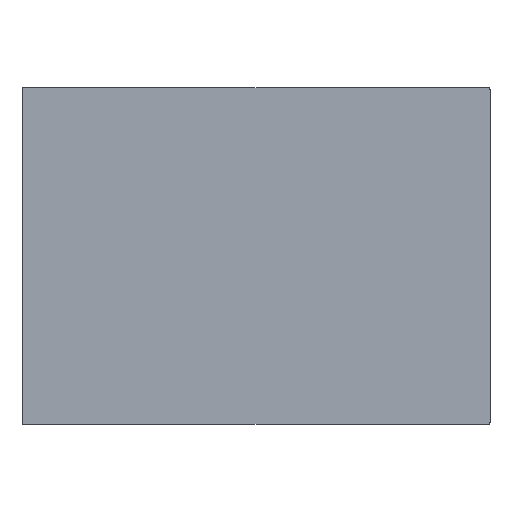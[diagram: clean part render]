
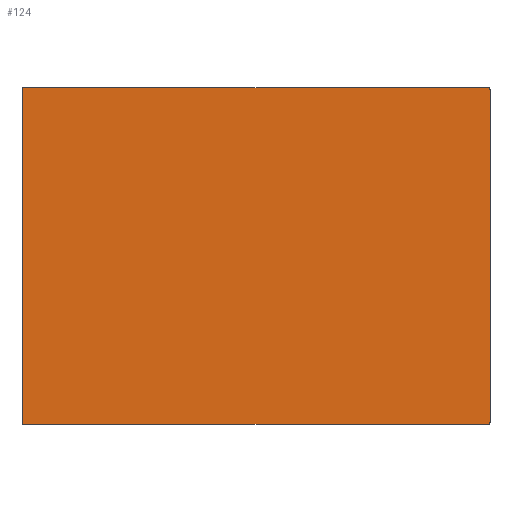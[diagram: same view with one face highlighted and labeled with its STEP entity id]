
A CAD part, front view. The second image highlights one B-rep face of the part: STEP entity #124.
In plain terms, the highlighted planar face has unit normal (0, -1, 0).
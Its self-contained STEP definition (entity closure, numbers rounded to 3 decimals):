
#3 = CARTESIAN_POINT ( 'NONE',  ( 162., 0., 0. ) ) ;
#8 = DIRECTION ( 'NONE',  ( 0., -1., 0. ) ) ;
#63 = AXIS2_PLACEMENT_3D ( 'NONE', #423, #8, #964 ) ;
#95 = VERTEX_POINT ( 'NONE', #1467 ) ;
#113 = EDGE_CURVE ( 'NONE', #1367, #550, #1326, .T. ) ;
#124 = ADVANCED_FACE ( 'NONE', ( #499 ), #1750, .T. ) ;
#138 = VERTEX_POINT ( 'NONE', #1519 ) ;
#150 = VECTOR ( 'NONE', #493, 1000. ) ;
#172 = AXIS2_PLACEMENT_3D ( 'NONE', #367, #761, #622 ) ;
#260 = CARTESIAN_POINT ( 'NONE',  ( 162., 0., 0. ) ) ;
#274 = DIRECTION ( 'NONE',  ( 0., 0., -1. ) ) ;
#293 = ORIENTED_EDGE ( 'NONE', *, *, #1511, .F. ) ;
#310 = DIRECTION ( 'NONE',  ( 0., 0., -1. ) ) ;
#317 = ORIENTED_EDGE ( 'NONE', *, *, #877, .F. ) ;
#367 = CARTESIAN_POINT ( 'NONE',  ( 162., 0., -2. ) ) ;
#386 = CARTESIAN_POINT ( 'NONE',  ( 660., 0., -2. ) ) ;
#387 = VECTOR ( 'NONE', #796, 1000. ) ;
#396 = VERTEX_POINT ( 'NONE', #659 ) ;
#410 = VECTOR ( 'NONE', #274, 1000. ) ;
#423 = CARTESIAN_POINT ( 'NONE',  ( 162., 0., -2. ) ) ;
#449 = CARTESIAN_POINT ( 'NONE',  ( 658., 0., -2. ) ) ;
#487 = CARTESIAN_POINT ( 'NONE',  ( 162., 0., -360. ) ) ;
#493 = DIRECTION ( 'NONE',  ( -1., 0., 0. ) ) ;
#499 = FACE_OUTER_BOUND ( 'NONE', #1031, .T. ) ;
#550 = VERTEX_POINT ( 'NONE', #596 ) ;
#573 = CIRCLE ( 'NONE', #172, 2. ) ;
#588 = ORIENTED_EDGE ( 'NONE', *, *, #1151, .F. ) ;
#590 = DIRECTION ( 'NONE',  ( 0., 0., -1. ) ) ;
#596 = CARTESIAN_POINT ( 'NONE',  ( 658., 0., 0. ) ) ;
#618 = EDGE_CURVE ( 'NONE', #95, #1477, #795, .T. ) ;
#622 = DIRECTION ( 'NONE',  ( 0., 0., -1. ) ) ;
#659 = CARTESIAN_POINT ( 'NONE',  ( 160., 0., -358. ) ) ;
#695 = CARTESIAN_POINT ( 'NONE',  ( 162., 0., -358. ) ) ;
#761 = DIRECTION ( 'NONE',  ( 0., 1., 0. ) ) ;
#776 = VERTEX_POINT ( 'NONE', #1069 ) ;
#795 = CIRCLE ( 'NONE', #1247, 2. ) ;
#796 = DIRECTION ( 'NONE',  ( 0., 0., 1. ) ) ;
#830 = DIRECTION ( 'NONE',  ( 1., 0., 0. ) ) ;
#840 = ORIENTED_EDGE ( 'NONE', *, *, #618, .F. ) ;
#850 = LINE ( 'NONE', #1339, #387 ) ;
#877 = EDGE_CURVE ( 'NONE', #776, #396, #1026, .T. ) ;
#964 = DIRECTION ( 'NONE',  ( 0., 0., -1. ) ) ;
#1003 = LINE ( 'NONE', #487, #150 ) ;
#1026 = CIRCLE ( 'NONE', #1621, 2. ) ;
#1031 = EDGE_LOOP ( 'NONE', ( #1718, #1671, #317, #588, #840, #1250, #293, #1309 ) ) ;
#1069 = CARTESIAN_POINT ( 'NONE',  ( 162., 0., -360. ) ) ;
#1070 = LINE ( 'NONE', #386, #410 ) ;
#1151 = EDGE_CURVE ( 'NONE', #1477, #776, #1003, .T. ) ;
#1247 = AXIS2_PLACEMENT_3D ( 'NONE', #1401, #1680, #590 ) ;
#1248 = VERTEX_POINT ( 'NONE', #1336 ) ;
#1250 = ORIENTED_EDGE ( 'NONE', *, *, #1773, .F. ) ;
#1253 = CARTESIAN_POINT ( 'NONE',  ( 658., 0., -360. ) ) ;
#1307 = VECTOR ( 'NONE', #830, 1000. ) ;
#1309 = ORIENTED_EDGE ( 'NONE', *, *, #113, .F. ) ;
#1326 = LINE ( 'NONE', #260, #1307 ) ;
#1336 = CARTESIAN_POINT ( 'NONE',  ( 660., 0., -2. ) ) ;
#1339 = CARTESIAN_POINT ( 'NONE',  ( 160., 0., -2. ) ) ;
#1363 = DIRECTION ( 'NONE',  ( 0., 1., 0. ) ) ;
#1367 = VERTEX_POINT ( 'NONE', #3 ) ;
#1401 = CARTESIAN_POINT ( 'NONE',  ( 658., 0., -358. ) ) ;
#1467 = CARTESIAN_POINT ( 'NONE',  ( 660., 0., -358. ) ) ;
#1477 = VERTEX_POINT ( 'NONE', #1253 ) ;
#1511 = EDGE_CURVE ( 'NONE', #550, #1248, #1686, .T. ) ;
#1519 = CARTESIAN_POINT ( 'NONE',  ( 160., 0., -2. ) ) ;
#1540 = AXIS2_PLACEMENT_3D ( 'NONE', #449, #1654, #1670 ) ;
#1621 = AXIS2_PLACEMENT_3D ( 'NONE', #695, #1363, #310 ) ;
#1650 = EDGE_CURVE ( 'NONE', #138, #1367, #573, .T. ) ;
#1654 = DIRECTION ( 'NONE',  ( 0., 1., 0. ) ) ;
#1670 = DIRECTION ( 'NONE',  ( 0., 0., 1. ) ) ;
#1671 = ORIENTED_EDGE ( 'NONE', *, *, #1752, .F. ) ;
#1680 = DIRECTION ( 'NONE',  ( 0., 1., 0. ) ) ;
#1686 = CIRCLE ( 'NONE', #1540, 2. ) ;
#1718 = ORIENTED_EDGE ( 'NONE', *, *, #1650, .F. ) ;
#1750 = PLANE ( 'NONE',  #63 ) ;
#1752 = EDGE_CURVE ( 'NONE', #396, #138, #850, .T. ) ;
#1773 = EDGE_CURVE ( 'NONE', #1248, #95, #1070, .T. ) ;
